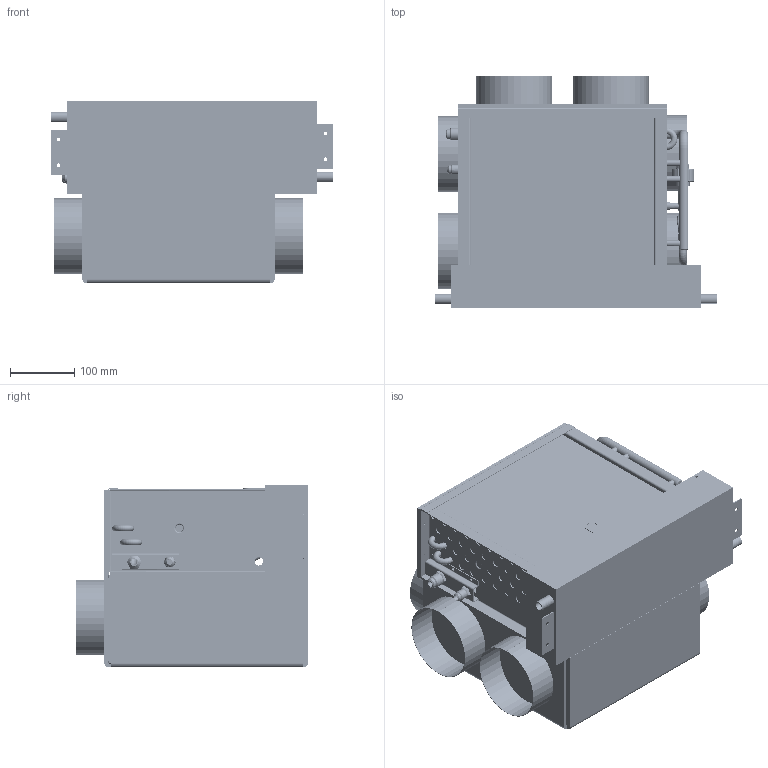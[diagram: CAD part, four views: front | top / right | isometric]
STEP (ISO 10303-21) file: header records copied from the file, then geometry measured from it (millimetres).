
FILE_DESCRIPTION(/* description */ ('STEP AP214'),/* implementation_level */ '2;1');
FILE_NAME(/* name */ 'D:\QSync\Disegni\01_Prodotti\MRMAXI18 - 24i\04_File CAD per condivisione\MRMAXI18.stp',/* time_stamp */ '2022-04-06T11:52:42+02:00',/* author */ ('CAD 1'),/* organization */ (''),/* preprocessor_version */ 'ST-DEVELOPER v18.1',/* originating_system */ 'Autodesk Inventor 2021',/* authorisation */ '');
FILE_SCHEMA (('AUTOMOTIVE_DESIGN { 1 0 10303 214 3 1 1 }'));
Products named in the file (40): MRSLIM36; Pressacavo PG_PG9; Canalina; l-al-6145-00-gr22v-4ip_z8_br; MRS227_R1; ISO_MRS010_FD; ISO_MRS010_LL; ISO_MRS010_LC; ISO_MRS010_LL_Perini; MRMAXI18_FLANGIA; MRS_010; MRS_030; MRS_051_R1; MRS_020; MRMAXI18_COVER; Corpo valvola; GZ25_007; Pacco_GZ25_3; GZ25.B_007; GZ25.A_007; GZ25.I_003; 1020_03; GZ25.I_003_1; GZ25_I0_CAPILL; imbocco_18; 2010_00_2010.01; GZ25_L2; Forcina_25_h18_15; GZ25_G0; FONO_011; FONO_010; Hydro_Connection_3_8; Hydro_Connection_1_2; MRS_075; MRS_071_22; MRS_070_23; Valvola E2V; Bobina; Cappuccio; Connettore
Assembly tree (93 placements, depth 4):
  MRSLIM36
    Pressacavo PG_PG9
    Canalina
    l-al-6145-00-gr22v-4ip_z8_br
    MRS227_R1
    ISO_MRS010_FD
    ISO_MRS010_LC  x2
    ISO_MRS010_LL
    ISO_MRS010_LL_Perini
    MRMAXI18_FLANGIA
    MRS_010
    MRS_030  x2
    MRS_051_R1
    MRS_020  x2
    MRMAXI18_COVER
    Corpo valvola
    GZ25_007
      Pacco_GZ25_3
      GZ25.B_007
      GZ25.A_007
      imbocco_18  x44
      Forcina_25_h18_15  x2
      GZ25.I_003
        1020_03
        GZ25.I_003_1
        GZ25_I0_CAPILL  x3
      2010_00_2010.01
      GZ25_L2
      GZ25_G0
    FONO_011
    FONO_010
    Hydro_Connection_3_8
    Hydro_Connection_1_2
    MRS_075  x6
      MRS_071_22
      MRS_070_23
    Valvola E2V
      Bobina
      Cappuccio
      Connettore
Bounding box: 439 x 361 x 284.5 mm (x, y, z)
Volume: 12389315.2 mm3; surface area: 3787216.7 mm2
Topology: 94 solids, 96 shells, 10847 faces, 28457 edges, 18849 vertices
Faces by surface type: plane 8076, cylinder 1113, bspline 1067, cone 446, torus 122, sphere 23
Full cylindrical faces by diameter (mm): 2 x3, 3 x3, 3.2 x8, 3.25 x3, 3.3 x4, 3.5 x4, 4 x6, 4.2 x9, 4.5 x15, 5 x20, 5.2 x7, 5.5 x4, 5.8 x8, 6 x10, 6.2 x4, 6.5 x1, 7.3 x24, 7.72 x3, 8 x1, 8.22 x4, 8.5 x1, 8.72 x44, 8.85 x1, 9 x24, 9.18 x2, 9.32 x46, 9.5 x1, 9.52 x51, 9.8 x2, 10 x5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
Entity records: 340079 total; most frequent: CARTESIAN_POINT 96540, ORIENTED_EDGE 51760, DIRECTION 46638, EDGE_CURVE 25880, LINE 19620, VECTOR 19620, VERTEX_POINT 17176, AXIS2_PLACEMENT_3D 13509
